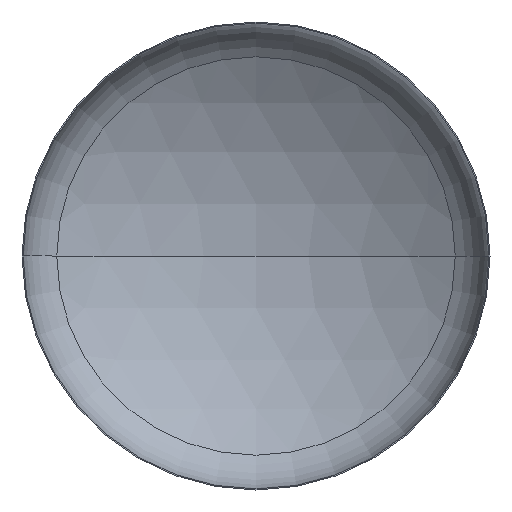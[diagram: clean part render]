
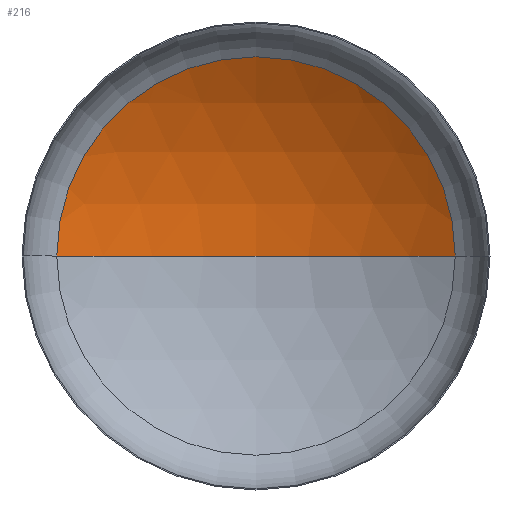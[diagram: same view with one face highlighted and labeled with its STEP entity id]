
A CAD part, front view. The second image highlights one B-rep face of the part: STEP entity #216.
In plain terms, the highlighted spherical face has radius 6000 mm.
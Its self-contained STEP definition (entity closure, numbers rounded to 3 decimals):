
#1 = DIRECTION ( 'NONE',  ( 0., 0., 1. ) ) ;
#6 = CARTESIAN_POINT ( 'NONE',  ( 0., -4047.187, 0. ) ) ;
#9 = DIRECTION ( 'NONE',  ( -1., 0., 0. ) ) ;
#18 = DIRECTION ( 'NONE',  ( 0., 0., -1. ) ) ;
#19 = CARTESIAN_POINT ( 'NONE',  ( 0., -4047.187, 0. ) ) ;
#21 = CARTESIAN_POINT ( 'NONE',  ( -3192.57, 1032.921, 0. ) ) ;
#42 = AXIS2_PLACEMENT_3D ( 'NONE', #19, #18, #9 ) ;
#62 = VERTEX_POINT ( 'NONE', #128 ) ;
#65 = AXIS2_PLACEMENT_3D ( 'NONE', #6, #1, #135 ) ;
#67 = AXIS2_PLACEMENT_3D ( 'NONE', #139, #140, #144 ) ;
#74 = AXIS2_PLACEMENT_3D ( 'NONE', #181, #186, #165 ) ;
#81 = ORIENTED_EDGE ( 'NONE', *, *, #160, .T. ) ;
#128 = CARTESIAN_POINT ( 'NONE',  ( 3192.57, 1032.921, 0. ) ) ;
#135 = DIRECTION ( 'NONE',  ( 1., 0., 0. ) ) ;
#139 = CARTESIAN_POINT ( 'NONE',  ( 0., -4047.187, 0. ) ) ;
#140 = DIRECTION ( 'NONE',  ( 0., 0., -1. ) ) ;
#144 = DIRECTION ( 'NONE',  ( -1., 0., 0. ) ) ;
#160 = EDGE_CURVE ( 'NONE', #62, #230, #172, .T. ) ;
#162 = EDGE_CURVE ( 'NONE', #192, #62, #382, .T. ) ;
#165 = DIRECTION ( 'NONE',  ( 1., 0., 0. ) ) ;
#167 = EDGE_CURVE ( 'NONE', #192, #230, #305, .T. ) ;
#172 = CIRCLE ( 'NONE', #74, 3192.57 ) ;
#181 = CARTESIAN_POINT ( 'NONE',  ( 0., 1032.921, 0. ) ) ;
#186 = DIRECTION ( 'NONE',  ( 0., -1., 0. ) ) ;
#192 = VERTEX_POINT ( 'NONE', #222 ) ;
#216 = ADVANCED_FACE ( 'NONE', ( #364 ), #290, .F. ) ;
#222 = CARTESIAN_POINT ( 'NONE',  ( 0., 1952.813, 0. ) ) ;
#230 = VERTEX_POINT ( 'NONE', #21 ) ;
#290 = SPHERICAL_SURFACE ( 'NONE', #42, 6000. ) ;
#302 = ORIENTED_EDGE ( 'NONE', *, *, #167, .F. ) ;
#305 = CIRCLE ( 'NONE', #65, 6000. ) ;
#364 = FACE_OUTER_BOUND ( 'NONE', #372, .T. ) ;
#372 = EDGE_LOOP ( 'NONE', ( #302, #410, #81 ) ) ;
#382 = CIRCLE ( 'NONE', #67, 6000. ) ;
#410 = ORIENTED_EDGE ( 'NONE', *, *, #162, .T. ) ;
